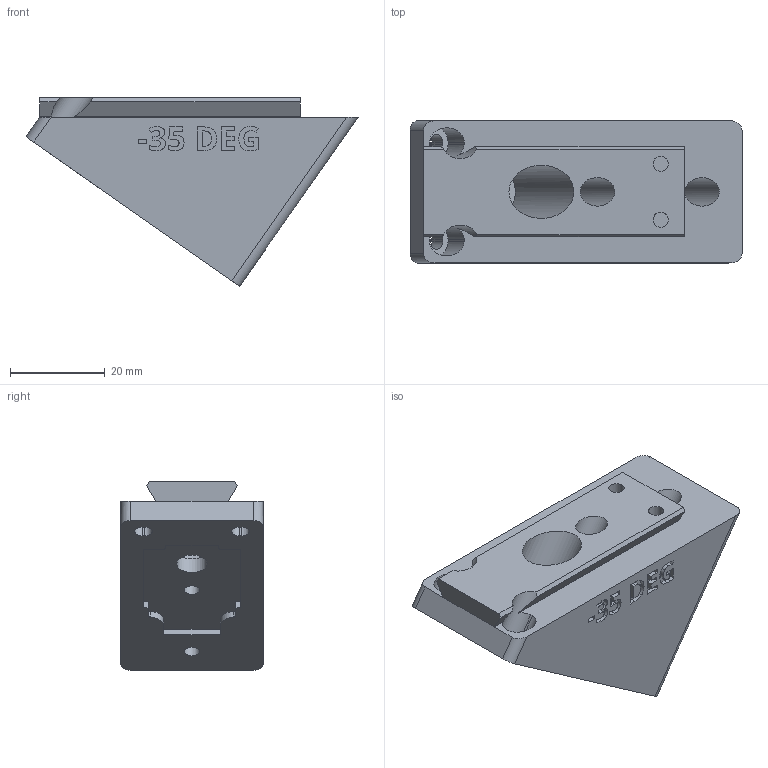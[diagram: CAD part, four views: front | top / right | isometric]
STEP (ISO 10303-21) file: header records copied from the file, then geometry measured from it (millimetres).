
FILE_DESCRIPTION(/* description */ ('STEP AP242 Edition 2','CAx-IF Rec.Pracs.---Representation and Presentation of Product Manufacturing Information (PMI)---4.0---2014-10-13','CAx-IF Rec.Pracs.---3D Tessellated Geometry---0.4---2014-09-14','2;1','CAx-IF Rec.Pracs.---User Defined Attributes---1.5---2016-08-15'),/* implementation_level */ '2;1');
FILE_NAME(/* name */ 'Camera Wedges - CAMERA MOUNTING WEDGE, NEG, -35 DEG',/* time_stamp */ '2026-07-08T20:36:48Z',/* author */ (''),/* organization */ (''),/* preprocessor_version */ 'ST-DEVELOPER v20',/* originating_system */ 'ONSHAPE BY PTC INC, 1.217',/* authorisation */ ' ');
FILE_SCHEMA (('AP242_MANAGED_MODEL_BASED_3D_ENGINEERING_MIM_LF { 1 0 10303 442 3 1 4 }'));
Length unit declared in the file: metre
Products named in the file (1): CAMERA MOUNTING WEDGE, NEG, -35 DEG
Bounding box: 70 x 30 x 39.73 mm (x, y, z)
Volume: 38791.9 mm3; surface area: 10923.2 mm2
Topology: 1 solids, 1 shells, 279 faces, 769 edges, 512 vertices
Faces by surface type: plane 149, bspline 78, cylinder 52
Full cylindrical faces by diameter (mm): 3.2 x4, 6 x2, 6.4 x1, 11.2 x1
Entity records: 9117 total; most frequent: CARTESIAN_POINT 2411, ORIENTED_EDGE 1522, DIRECTION 1125, EDGE_CURVE 761, VERTEX_POINT 512, LINE 489, VECTOR 489, AXIS2_PLACEMENT_3D 318
